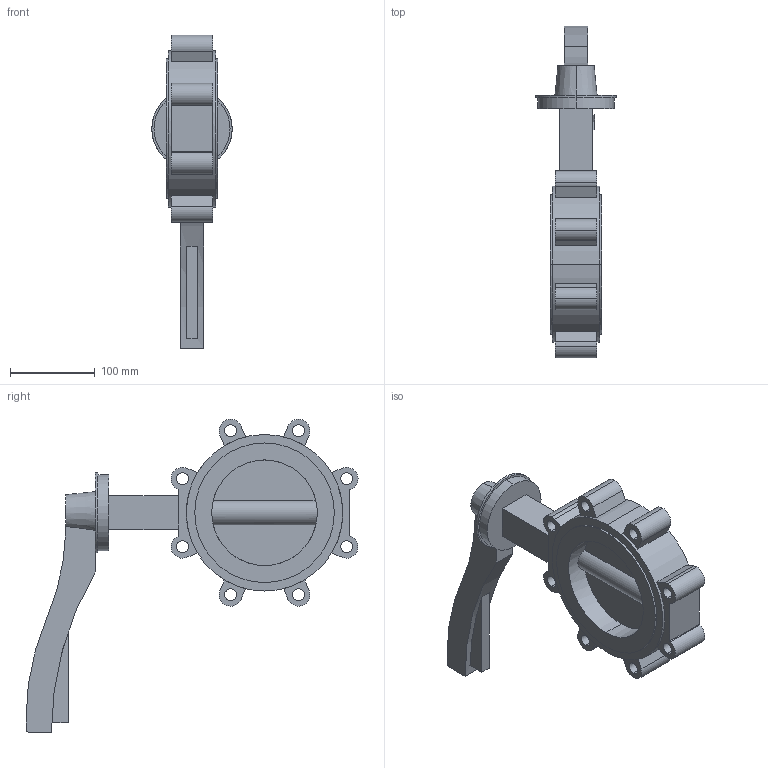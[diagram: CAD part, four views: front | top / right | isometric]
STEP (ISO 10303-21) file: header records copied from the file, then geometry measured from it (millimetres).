
FILE_DESCRIPTION (( 'STEP AP214' ), '1' );
FILE_NAME ('E124_125.STEP', '2021-05-28T14:00:30', ( '' ), ( '' ), 'SwSTEP 2.0', 'SolidWorks 2020', '' );
FILE_SCHEMA (( 'AUTOMOTIVE_DESIGN' ));
Length unit declared in the file: millimetre
Products named in the file (1): E124_125
Bounding box: 95 x 392.5 x 370.51 mm (x, y, z)
Volume: 1806466.7 mm3; surface area: 216756.4 mm2
Topology: 1 solids, 1 shells, 118 faces, 301 edges, 200 vertices
Faces by surface type: plane 68, cylinder 48, cone 2
Entity records: 5073 total; most frequent: CARTESIAN_POINT 802, DIRECTION 649, ORIENTED_EDGE 602, EDGE_CURVE 301, AXIS2_PLACEMENT_3D 235, VERTEX_POINT 200, LINE 179, VECTOR 179
